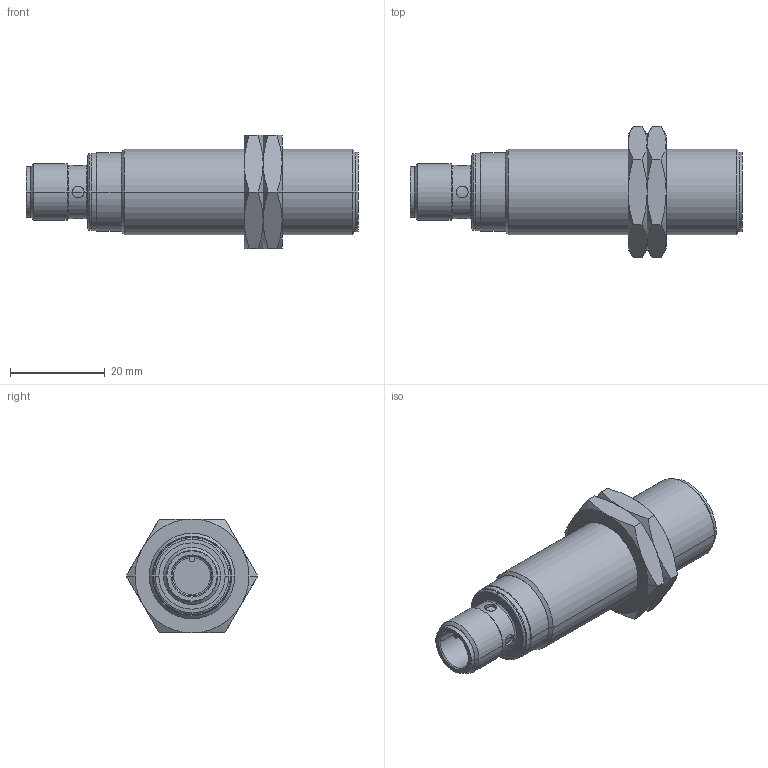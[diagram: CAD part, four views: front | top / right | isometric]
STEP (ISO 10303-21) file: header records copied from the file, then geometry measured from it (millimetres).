
FILE_DESCRIPTION( ( '' ), '1' );
FILE_NAME( '//partserver001.servicenet/client_exchange/iodir/jobs/output/wkb10601868_no0/STEP/igt219_2_03.stp', '2008-05-15T11:30:02', ( '' ), ( '' ), ' ', ' ', ' ' );
FILE_SCHEMA( ( 'CONFIG_CONTROL_DESIGN' ) );
Length unit declared in the file: millimetre
Products named in the file (3): 1; 2; 3
Bounding box: 70 x 27.71 x 24 mm (x, y, z)
Volume: 17166.3 mm3; surface area: 6407.4 mm2
Topology: 3 solids, 3 shells, 124 faces, 275 edges, 165 vertices
Faces by surface type: cone 54, cylinder 37, plane 27, torus 6
Entity records: 3734 total; most frequent: CARTESIAN_POINT 961, DIRECTION 572, ORIENTED_EDGE 550, EDGE_CURVE 275, AXIS2_PLACEMENT_3D 244, VERTEX_POINT 165, EDGE_LOOP 136, ADVANCED_FACE 124
